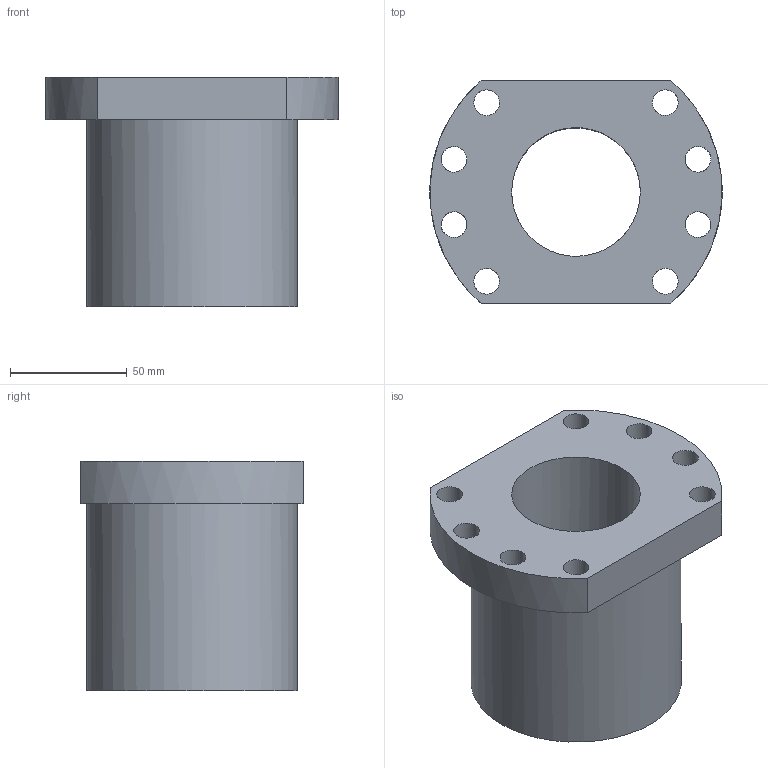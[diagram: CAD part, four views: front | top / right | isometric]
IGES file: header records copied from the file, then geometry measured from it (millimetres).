
Global section: file name: Гайка ШВП SFU6310 L=98 01.00; native system: Autodesk Inventor 2016; preprocessor: unknown; author: t1; organization: Проектная группа,11,0,15H201708; date: 20170802.084716; units: millimetre
Bounding box: 124.88 x 95 x 98 mm (x, y, z)
Volume: 453882.6 mm3; surface area: 66323.1 mm2
Topology: 1 solids, 1 shells, 17 faces, 51 edges, 37 vertices
Faces by surface type: bspline 17
